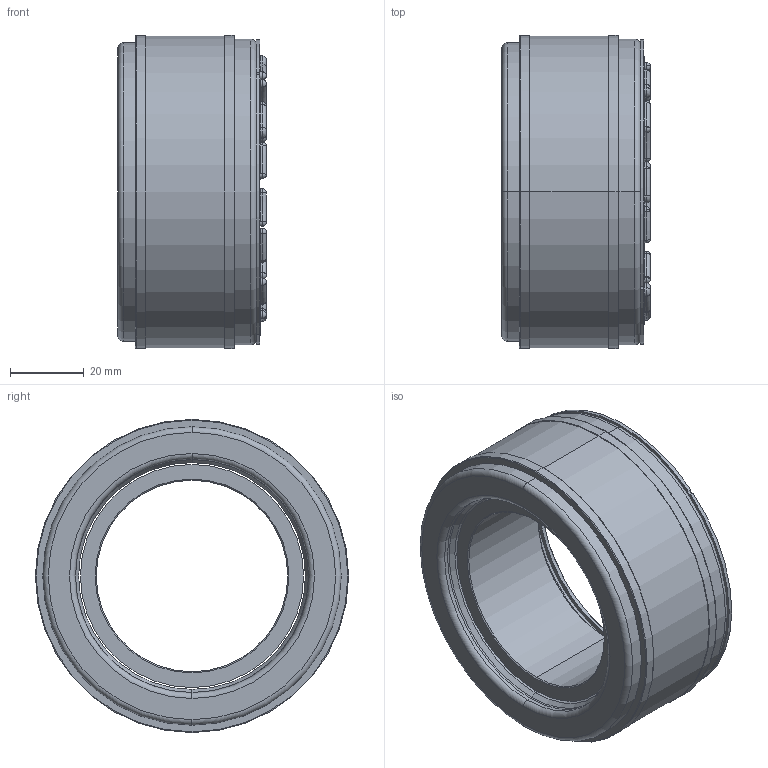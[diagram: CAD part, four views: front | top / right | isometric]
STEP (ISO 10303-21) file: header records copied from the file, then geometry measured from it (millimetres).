
FILE_DESCRIPTION (( 'STEP AP214' ), '1' );
FILE_NAME ('E-00108478.01.step', '2019-11-05T09:08:40', ( 'Admin' ), ( 'Microsoft' ), 'SwSTEP 2.0', 'SolidWorks 2018', '' );
FILE_SCHEMA (( 'AUTOMOTIVE_DESIGN' ));
Length unit declared in the file: millimetre
Products named in the file (4): E-00008197; E-00008424; E-00108477; E-00108478.01
Assembly tree (3 placements, depth 2):
  E-00108478.01
    E-00108477
    E-00008424
    E-00008197
Bounding box: 40.3 x 85 x 85 mm (x, y, z)
Volume: 117402 mm3; surface area: 38874.8 mm2
Topology: 3 solids, 3 shells, 1195 faces, 2621 edges, 1711 vertices
Faces by surface type: cylinder 613, plane 486, torus 88, cone 8
Entity records: 44479 total; most frequent: DIRECTION 6498, CARTESIAN_POINT 5533, ORIENTED_EDGE 5242, AXIS2_PLACEMENT_3D 2676, EDGE_CURVE 2621, VERTEX_POINT 1711, EDGE_LOOP 1486, CIRCLE 1475
